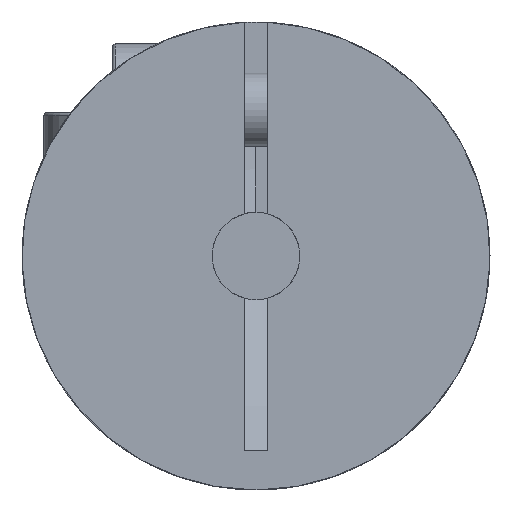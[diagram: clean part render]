
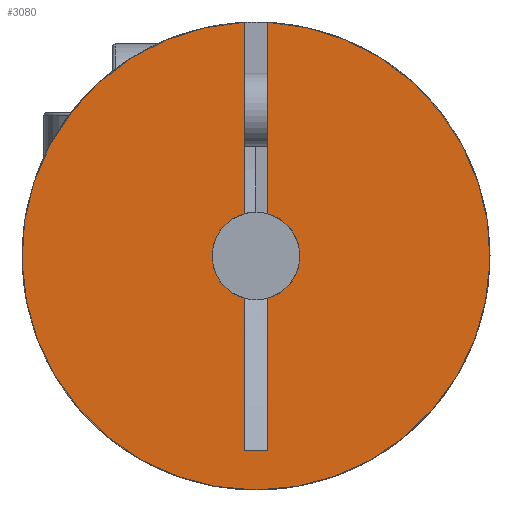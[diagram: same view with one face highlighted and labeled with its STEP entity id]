
A CAD part, left-side view. The second image highlights one B-rep face of the part: STEP entity #3080.
In plain terms, the highlighted planar face has unit normal (-1, 0, 0) as drawn and (0, 0, -1) by its records, which use the part's own axes.
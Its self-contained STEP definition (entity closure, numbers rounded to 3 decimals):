
#13 = CARTESIAN_POINT ( 'NONE',  ( 6.648, -0.4, 0. ) ) ;
#28 = DIRECTION ( 'NONE',  ( -1., 0., 0. ) ) ;
#74 = CIRCLE ( 'NONE', #1204, 8. ) ;
#101 = CIRCLE ( 'NONE', #2621, 1.5 ) ;
#148 = DIRECTION ( 'NONE',  ( 0., 0., -1. ) ) ;
#157 = EDGE_CURVE ( 'NONE', #1248, #2326, #1093, .T. ) ;
#158 = EDGE_CURVE ( 'NONE', #1035, #2616, #2795, .T. ) ;
#235 = ORIENTED_EDGE ( 'NONE', *, *, #158, .F. ) ;
#287 = VERTEX_POINT ( 'NONE', #13 ) ;
#294 = DIRECTION ( 'NONE',  ( 0., 1., 0. ) ) ;
#390 = CARTESIAN_POINT ( 'NONE',  ( 0., 0., 0. ) ) ;
#423 = VERTEX_POINT ( 'NONE', #1849 ) ;
#444 = CARTESIAN_POINT ( 'NONE',  ( 0., 0., 0. ) ) ;
#465 = EDGE_CURVE ( 'NONE', #1858, #1035, #74, .T. ) ;
#541 = DIRECTION ( 'NONE',  ( 1., 0., 0. ) ) ;
#559 = EDGE_CURVE ( 'NONE', #423, #2326, #1508, .T. ) ;
#650 = VECTOR ( 'NONE', #28, 1000. ) ;
#696 = ORIENTED_EDGE ( 'NONE', *, *, #2324, .F. ) ;
#727 = EDGE_LOOP ( 'NONE', ( #696, #2266, #3043, #2406, #2772, #3026, #1747, #235, #2484 ) ) ;
#797 = VECTOR ( 'NONE', #1753, 1000. ) ;
#885 = VECTOR ( 'NONE', #1644, 1000. ) ;
#902 = PLANE ( 'NONE',  #3052 ) ;
#938 = EDGE_CURVE ( 'NONE', #287, #423, #1944, .T. ) ;
#946 = CARTESIAN_POINT ( 'NONE',  ( 8., 0., 0. ) ) ;
#977 = CARTESIAN_POINT ( 'NONE',  ( -8., 0.4, 0. ) ) ;
#979 = EDGE_CURVE ( 'NONE', #2821, #1547, #101, .T. ) ;
#1035 = VERTEX_POINT ( 'NONE', #946 ) ;
#1093 = CIRCLE ( 'NONE', #2998, 1.5 ) ;
#1129 = DIRECTION ( 'NONE',  ( -1., 0., 0. ) ) ;
#1204 = AXIS2_PLACEMENT_3D ( 'NONE', #390, #2718, #541 ) ;
#1209 = DIRECTION ( 'NONE',  ( -1., 0., 0. ) ) ;
#1248 = VERTEX_POINT ( 'NONE', #2798 ) ;
#1282 = CARTESIAN_POINT ( 'NONE',  ( -8., 0.4, 0. ) ) ;
#1423 = FACE_OUTER_BOUND ( 'NONE', #727, .T. ) ;
#1434 = DIRECTION ( 'NONE',  ( 0., 0., 1. ) ) ;
#1473 = DIRECTION ( 'NONE',  ( -1., 0., 0. ) ) ;
#1508 = LINE ( 'NONE', #1282, #797 ) ;
#1547 = VERTEX_POINT ( 'NONE', #2723 ) ;
#1618 = CARTESIAN_POINT ( 'NONE',  ( 1.446, -0.4, 0. ) ) ;
#1644 = DIRECTION ( 'NONE',  ( -1., 0., 0. ) ) ;
#1747 = ORIENTED_EDGE ( 'NONE', *, *, #3110, .T. ) ;
#1753 = DIRECTION ( 'NONE',  ( -1., 0., 0. ) ) ;
#1849 = CARTESIAN_POINT ( 'NONE',  ( 6.648, 0.4, 0. ) ) ;
#1858 = VERTEX_POINT ( 'NONE', #2607 ) ;
#1886 = CARTESIAN_POINT ( 'NONE',  ( 0., 0., 0. ) ) ;
#1894 = DIRECTION ( 'NONE',  ( 1., 0., 0. ) ) ;
#1901 = EDGE_CURVE ( 'NONE', #287, #2821, #2620, .T. ) ;
#1944 = LINE ( 'NONE', #2211, #2110 ) ;
#1945 = CARTESIAN_POINT ( 'NONE',  ( 0., 0., 0. ) ) ;
#1946 = LINE ( 'NONE', #1977, #2988 ) ;
#1977 = CARTESIAN_POINT ( 'NONE',  ( -8., -0.4, 0. ) ) ;
#2110 = VECTOR ( 'NONE', #294, 1000. ) ;
#2142 = CARTESIAN_POINT ( 'NONE',  ( -8., -0.4, 0. ) ) ;
#2147 = DIRECTION ( 'NONE',  ( 1., 0., 0. ) ) ;
#2211 = CARTESIAN_POINT ( 'NONE',  ( 6.648, -0.4, 0. ) ) ;
#2260 = LINE ( 'NONE', #977, #650 ) ;
#2266 = ORIENTED_EDGE ( 'NONE', *, *, #979, .F. ) ;
#2295 = CARTESIAN_POINT ( 'NONE',  ( -7.99, 0.4, 0. ) ) ;
#2324 = EDGE_CURVE ( 'NONE', #1547, #1858, #1946, .T. ) ;
#2326 = VERTEX_POINT ( 'NONE', #2481 ) ;
#2406 = ORIENTED_EDGE ( 'NONE', *, *, #938, .T. ) ;
#2481 = CARTESIAN_POINT ( 'NONE',  ( 1.446, 0.4, 0. ) ) ;
#2484 = ORIENTED_EDGE ( 'NONE', *, *, #465, .F. ) ;
#2498 = DIRECTION ( 'NONE',  ( 0., 0., -1. ) ) ;
#2607 = CARTESIAN_POINT ( 'NONE',  ( -7.99, -0.4, 0. ) ) ;
#2616 = VERTEX_POINT ( 'NONE', #2295 ) ;
#2620 = LINE ( 'NONE', #2142, #885 ) ;
#2621 = AXIS2_PLACEMENT_3D ( 'NONE', #2956, #2498, #1473 ) ;
#2718 = DIRECTION ( 'NONE',  ( 0., 0., 1. ) ) ;
#2723 = CARTESIAN_POINT ( 'NONE',  ( -1.446, -0.4, 0. ) ) ;
#2772 = ORIENTED_EDGE ( 'NONE', *, *, #559, .T. ) ;
#2795 = CIRCLE ( 'NONE', #2943, 8. ) ;
#2798 = CARTESIAN_POINT ( 'NONE',  ( -1.446, 0.4, 0. ) ) ;
#2821 = VERTEX_POINT ( 'NONE', #1618 ) ;
#2943 = AXIS2_PLACEMENT_3D ( 'NONE', #1886, #3093, #2147 ) ;
#2956 = CARTESIAN_POINT ( 'NONE',  ( 0., 0., 0. ) ) ;
#2988 = VECTOR ( 'NONE', #1209, 1000. ) ;
#2998 = AXIS2_PLACEMENT_3D ( 'NONE', #1945, #148, #1129 ) ;
#3026 = ORIENTED_EDGE ( 'NONE', *, *, #157, .F. ) ;
#3043 = ORIENTED_EDGE ( 'NONE', *, *, #1901, .F. ) ;
#3052 = AXIS2_PLACEMENT_3D ( 'NONE', #444, #1434, #1894 ) ;
#3080 = ADVANCED_FACE ( 'NONE', ( #1423 ), #902, .F. ) ;
#3093 = DIRECTION ( 'NONE',  ( 0., 0., 1. ) ) ;
#3110 = EDGE_CURVE ( 'NONE', #1248, #2616, #2260, .T. ) ;
